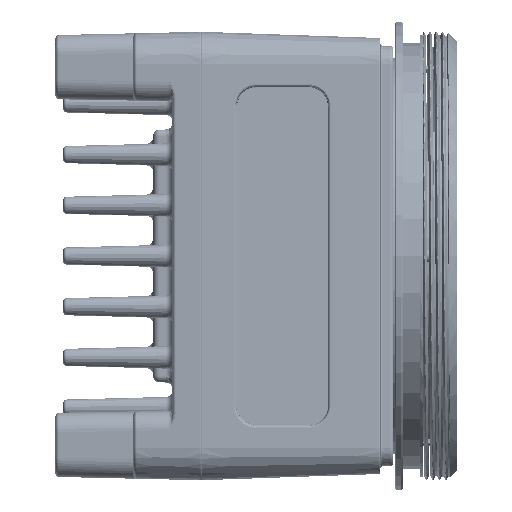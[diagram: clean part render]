
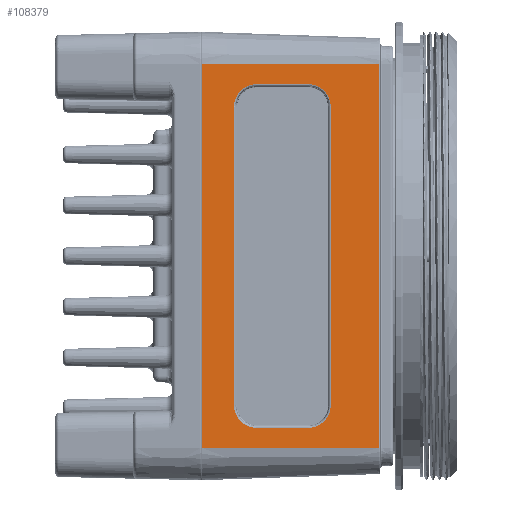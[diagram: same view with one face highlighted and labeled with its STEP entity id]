
A CAD part, front view. The second image highlights one B-rep face of the part: STEP entity #108379.
In plain terms, the highlighted planar face has unit normal (0.035, -0.999, 0).
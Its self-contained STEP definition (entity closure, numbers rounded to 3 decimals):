
#33350=DIRECTION('',(0.999,0.035,0.));
#33351=VECTOR('',#33350,27.227);
#33352=CARTESIAN_POINT('',(-28.7,-34.4,-29.5));
#33353=LINE('',#33352,#33351);
#33381=DIRECTION('',(0.,0.,1.));
#33382=VECTOR('',#33381,59.);
#33383=CARTESIAN_POINT('',(-1.49,-33.45,
-29.5));
#33384=LINE('',#33383,#33382);
#33395=DIRECTION('',(0.,0.,1.));
#33396=VECTOR('',#33395,59.);
#33397=CARTESIAN_POINT('',(-28.7,-34.4,-29.5));
#33398=LINE('',#33397,#33396);
#33402=DIRECTION('',(-0.999,-0.035,0.));
#33403=VECTOR('',#33402,8.005);
#33404=CARTESIAN_POINT('',(-12.29,-33.827,
26.43));
#33405=LINE('',#33404,#33403);
#33409=DIRECTION('',(0.,0.,-1.));
#33410=VECTOR('',#33409,46.);
#33411=CARTESIAN_POINT('',(-23.72,-34.226,
23.));
#33412=LINE('',#33411,#33410);
#33416=DIRECTION('',(0.999,0.035,0.));
#33417=VECTOR('',#33416,8.005);
#33418=CARTESIAN_POINT('',(-20.29,-34.106,
-26.43));
#33419=LINE('',#33418,#33417);
#33423=DIRECTION('',(0.,0.,1.));
#33424=VECTOR('',#33423,46.);
#33425=CARTESIAN_POINT('',(-8.86,-33.707,
-23.));
#33426=LINE('',#33425,#33424);
#33430=DIRECTION('',(-0.999,-0.035,
0.));
#33431=VECTOR('',#33430,27.227);
#33432=CARTESIAN_POINT('',(-1.49,-33.45,
29.5));
#33433=LINE('',#33432,#33431);
#43173=CARTESIAN_POINT('',(-12.29,-33.827,
26.43));
#43174=CARTESIAN_POINT('',(-11.99,-33.816,
26.429));
#43175=CARTESIAN_POINT('',(-11.409,-33.796,
26.353));
#43176=CARTESIAN_POINT('',(-10.566,-33.767,
26.01));
#43177=CARTESIAN_POINT('',(-9.838,-33.741,
25.454));
#43178=CARTESIAN_POINT('',(-9.281,-33.722,
24.726));
#43179=CARTESIAN_POINT('',(-8.937,-33.71,
23.882));
#43180=CARTESIAN_POINT('',(-8.861,-33.707,
23.301));
#43181=CARTESIAN_POINT('',(-8.86,-33.707,
23.));
#43202=CARTESIAN_POINT('',(-8.86,-33.707,
-23.));
#43203=CARTESIAN_POINT('',(-8.861,-33.707,
-23.3));
#43204=CARTESIAN_POINT('',(-8.937,-33.71,
-23.882));
#43205=CARTESIAN_POINT('',(-9.281,-33.722,
-24.725));
#43206=CARTESIAN_POINT('',(-9.838,-33.741,
-25.453));
#43207=CARTESIAN_POINT('',(-10.566,-33.767,
-26.01));
#43208=CARTESIAN_POINT('',(-11.409,-33.796,
-26.353));
#43209=CARTESIAN_POINT('',(-11.99,-33.816,
-26.429));
#43210=CARTESIAN_POINT('',(-12.29,-33.827,
-26.43));
#43231=CARTESIAN_POINT('',(-20.29,-34.106,
-26.43));
#43232=CARTESIAN_POINT('',(-20.59,-34.117,
-26.429));
#43233=CARTESIAN_POINT('',(-21.171,-34.137,
-26.353));
#43234=CARTESIAN_POINT('',(-22.014,-34.167,
-26.01));
#43235=CARTESIAN_POINT('',(-22.742,-34.192,
-25.453));
#43236=CARTESIAN_POINT('',(-23.299,-34.211,
-24.725));
#43237=CARTESIAN_POINT('',(-23.643,-34.223,
-23.882));
#43238=CARTESIAN_POINT('',(-23.719,-34.226,
-23.3));
#43239=CARTESIAN_POINT('',(-23.72,-34.226,
-23.));
#43260=CARTESIAN_POINT('',(-23.72,-34.226,
23.));
#43261=CARTESIAN_POINT('',(-23.719,-34.226,
23.3));
#43262=CARTESIAN_POINT('',(-23.643,-34.223,
23.881));
#43263=CARTESIAN_POINT('',(-23.299,-34.211,
24.725));
#43264=CARTESIAN_POINT('',(-22.742,-34.192,
25.453));
#43265=CARTESIAN_POINT('',(-22.014,-34.167,
26.01));
#43266=CARTESIAN_POINT('',(-21.171,-34.137,
26.353));
#43267=CARTESIAN_POINT('',(-20.59,-34.117,
26.429));
#43268=CARTESIAN_POINT('',(-20.29,-34.106,
26.43));
#69574=CARTESIAN_POINT('',(-28.7,-34.4,29.5));
#69575=VERTEX_POINT('',#69574);
#69576=CARTESIAN_POINT('',(-28.7,-34.4,-29.5));
#69577=VERTEX_POINT('',#69576);
#69664=CARTESIAN_POINT('',(-1.49,-33.45,
-29.5));
#69665=VERTEX_POINT('',#69664);
#69670=CARTESIAN_POINT('',(-1.49,-33.45,
29.5));
#69671=VERTEX_POINT('',#69670);
#69674=CARTESIAN_POINT('',(-12.29,-33.827,
26.43));
#69675=CARTESIAN_POINT('',(-20.29,-34.106,
26.43));
#69676=VERTEX_POINT('',#69674);
#69677=VERTEX_POINT('',#69675);
#69678=VERTEX_POINT('',#43260);
#69679=CARTESIAN_POINT('',(-23.72,-34.226,
-23.));
#69680=VERTEX_POINT('',#69679);
#69681=VERTEX_POINT('',#43231);
#69682=CARTESIAN_POINT('',(-12.29,-33.827,
-26.43));
#69683=VERTEX_POINT('',#69682);
#69684=VERTEX_POINT('',#43202);
#69685=CARTESIAN_POINT('',(-8.86,-33.707,
23.));
#69686=VERTEX_POINT('',#69685);
#108349=CARTESIAN_POINT('',(-28.7,-34.4,-37.293));
#108350=DIRECTION('',(0.035,-0.999,0.));
#108351=DIRECTION('',(0.,0.,1.));
#108352=AXIS2_PLACEMENT_3D('',#108349,#108350,#108351);
#108353=PLANE('',#108352);
#108354=ORIENTED_EDGE('',*,*,#108339,.F.);
#108355=ORIENTED_EDGE('',*,*,#108314,.F.);
#108356=ORIENTED_EDGE('',*,*,#81329,.T.);
#108358=ORIENTED_EDGE('',*,*,#108357,.F.);
#108359=EDGE_LOOP('',(#108354,#108355,#108356,#108358));
#108360=FACE_OUTER_BOUND('',#108359,.F.);
#108362=ORIENTED_EDGE('',*,*,#108361,.T.);
#108364=ORIENTED_EDGE('',*,*,#108363,.F.);
#108366=ORIENTED_EDGE('',*,*,#108365,.T.);
#108368=ORIENTED_EDGE('',*,*,#108367,.F.);
#108370=ORIENTED_EDGE('',*,*,#108369,.T.);
#108372=ORIENTED_EDGE('',*,*,#108371,.F.);
#108374=ORIENTED_EDGE('',*,*,#108373,.T.);
#108376=ORIENTED_EDGE('',*,*,#108375,.F.);
#108377=EDGE_LOOP('',(#108362,#108364,#108366,#108368,#108370,#108372,#108374,
#108376));
#108378=FACE_BOUND('',#108377,.F.);
#108379=ADVANCED_FACE('',(#108360,#108378),#108353,.T.);
#43182=B_SPLINE_CURVE_WITH_KNOTS('',3,(#43173,#43174,#43175,#43176,#43177,
#43178,#43179,#43180,#43181),.UNSPECIFIED.,.F.,.F.,(4,1,1,1,1,1,4),(0.,
0.167,0.333,0.5,0.667,0.833,
1.),.UNSPECIFIED.);
#43211=B_SPLINE_CURVE_WITH_KNOTS('',3,(#43202,#43203,#43204,#43205,#43206,
#43207,#43208,#43209,#43210),.UNSPECIFIED.,.F.,.F.,(4,1,1,1,1,1,4),(0.,
0.167,0.333,0.5,0.667,0.833,
1.),.UNSPECIFIED.);
#43240=B_SPLINE_CURVE_WITH_KNOTS('',3,(#43231,#43232,#43233,#43234,#43235,
#43236,#43237,#43238,#43239),.UNSPECIFIED.,.F.,.F.,(4,1,1,1,1,1,4),(0.,
0.167,0.333,0.5,0.667,0.833,
1.),.UNSPECIFIED.);
#43269=B_SPLINE_CURVE_WITH_KNOTS('',3,(#43260,#43261,#43262,#43263,#43264,
#43265,#43266,#43267,#43268),.UNSPECIFIED.,.F.,.F.,(4,1,1,1,1,1,4),(0.,
0.167,0.333,0.5,0.667,0.833,
1.),.UNSPECIFIED.);
#81329=EDGE_CURVE('',#69577,#69575,#33398,.T.);
#108314=EDGE_CURVE('',#69577,#69665,#33353,.T.);
#108339=EDGE_CURVE('',#69665,#69671,#33384,.T.);
#108357=EDGE_CURVE('',#69671,#69575,#33433,.T.);
#108361=EDGE_CURVE('',#69676,#69677,#33405,.T.);
#108363=EDGE_CURVE('',#69678,#69677,#43269,.T.);
#108365=EDGE_CURVE('',#69678,#69680,#33412,.T.);
#108367=EDGE_CURVE('',#69681,#69680,#43240,.T.);
#108369=EDGE_CURVE('',#69681,#69683,#33419,.T.);
#108371=EDGE_CURVE('',#69684,#69683,#43211,.T.);
#108373=EDGE_CURVE('',#69684,#69686,#33426,.T.);
#108375=EDGE_CURVE('',#69676,#69686,#43182,.T.);
